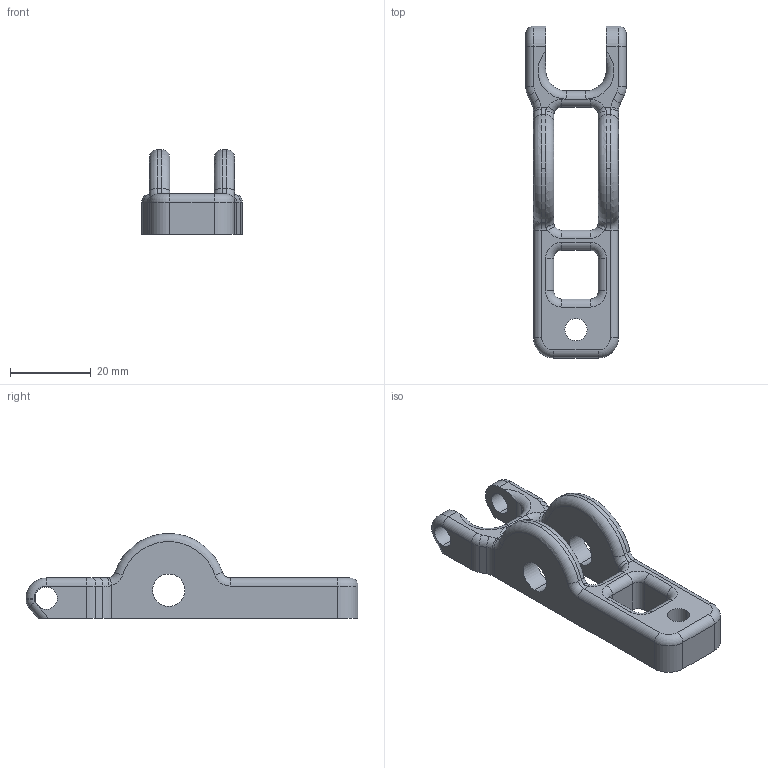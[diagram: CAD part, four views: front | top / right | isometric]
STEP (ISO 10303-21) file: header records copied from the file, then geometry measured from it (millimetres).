
FILE_DESCRIPTION (( 'STEP AP203' ), '1' );
FILE_NAME ('BELT IDLER Y.STEP', '2012-08-20T19:31:15', ( '' ), ( '' ), 'SwSTEP 2.0', 'SolidWorks 2012', '' );
FILE_SCHEMA (( 'CONFIG_CONTROL_DESIGN' ));
Length unit declared in the file: millimetre
Products named in the file (1): BELT IDLER Y
Bounding box: 24.8 x 82 x 20.98 mm (x, y, z)
Volume: 11624.7 mm3; surface area: 6614.6 mm2
Topology: 1 solids, 1 shells, 131 faces, 337 edges, 206 vertices
Faces by surface type: cylinder 58, plane 35, torus 32, bspline 6
Entity records: 4298 total; most frequent: CARTESIAN_POINT 943, DIRECTION 737, ORIENTED_EDGE 674, EDGE_CURVE 337, AXIS2_PLACEMENT_3D 294, VERTEX_POINT 206, CIRCLE 168, VECTOR 149
